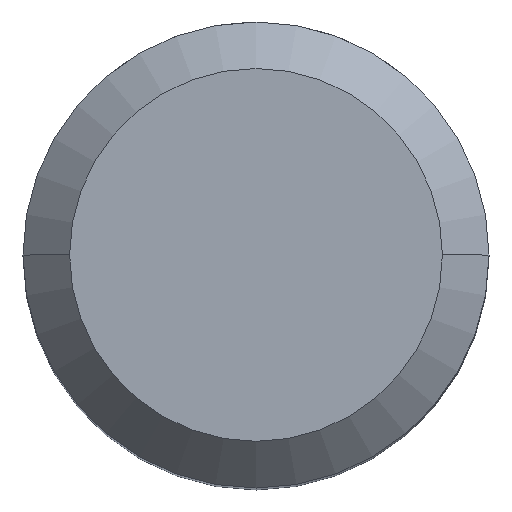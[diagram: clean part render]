
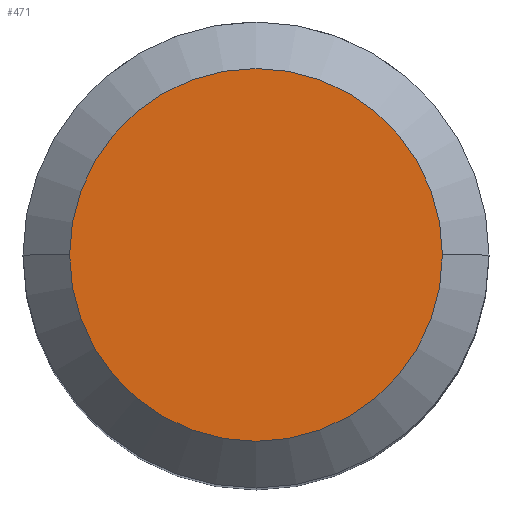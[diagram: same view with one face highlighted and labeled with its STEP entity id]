
A CAD part, top view. The second image highlights one B-rep face of the part: STEP entity #471.
In plain terms, the highlighted planar face has unit normal (0, 0, 1).
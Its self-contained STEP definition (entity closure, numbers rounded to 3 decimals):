
#2 = ORIENTED_EDGE ( 'NONE', *, *, #76, .F. ) ;
#5 = CARTESIAN_POINT ( 'NONE',  ( 0., 0., 0. ) ) ;
#24 = AXIS2_PLACEMENT_3D ( 'NONE', #413, #279, #421 ) ;
#46 = VERTEX_POINT ( 'NONE', #322 ) ;
#63 = AXIS2_PLACEMENT_3D ( 'NONE', #5, #441, #434 ) ;
#76 = EDGE_CURVE ( 'NONE', #46, #530, #370, .T. ) ;
#157 = FACE_OUTER_BOUND ( 'NONE', #236, .T. ) ;
#182 = EDGE_CURVE ( 'NONE', #530, #46, #535, .T. ) ;
#236 = EDGE_LOOP ( 'NONE', ( #2, #474 ) ) ;
#279 = DIRECTION ( 'NONE',  ( 0., 0., -1. ) ) ;
#319 = DIRECTION ( 'NONE',  ( 0., 0., 1. ) ) ;
#322 = CARTESIAN_POINT ( 'NONE',  ( -8., 0., 0. ) ) ;
#370 = CIRCLE ( 'NONE', #24, 8. ) ;
#379 = DIRECTION ( 'NONE',  ( 1., 0., 0. ) ) ;
#413 = CARTESIAN_POINT ( 'NONE',  ( 0., 0., 0. ) ) ;
#421 = DIRECTION ( 'NONE',  ( -1., 0., 0. ) ) ;
#429 = AXIS2_PLACEMENT_3D ( 'NONE', #494, #319, #379 ) ;
#434 = DIRECTION ( 'NONE',  ( -1., 0., 0. ) ) ;
#441 = DIRECTION ( 'NONE',  ( 0., 0., -1. ) ) ;
#460 = CARTESIAN_POINT ( 'NONE',  ( 8., 0., 0. ) ) ;
#471 = ADVANCED_FACE ( 'NONE', ( #157 ), #491, .T. ) ;
#474 = ORIENTED_EDGE ( 'NONE', *, *, #182, .F. ) ;
#491 = PLANE ( 'NONE',  #429 ) ;
#494 = CARTESIAN_POINT ( 'NONE',  ( 0., 8., 0. ) ) ;
#530 = VERTEX_POINT ( 'NONE', #460 ) ;
#535 = CIRCLE ( 'NONE', #63, 8. ) ;
